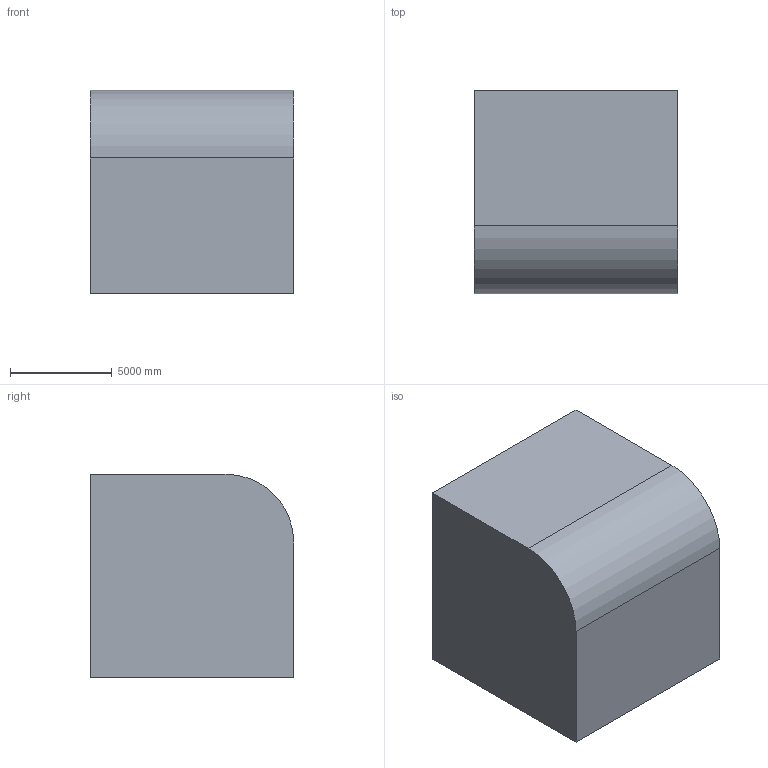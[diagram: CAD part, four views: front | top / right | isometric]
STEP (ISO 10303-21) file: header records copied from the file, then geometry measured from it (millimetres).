
FILE_DESCRIPTION (( 'STEP AP203' ), '1' );
FILE_NAME ('279.STEP', '2022-07-28T14:11:28', ( 'user' ), ( '' ), 'SwSTEP 2.0', 'SolidWorks 2021', '' );
FILE_SCHEMA (( 'CONFIG_CONTROL_DESIGN' ));
Length unit declared in the file: centimetre
Products named in the file (1): 279
Bounding box: 10000 x 10000 x 10000 mm (x, y, z)
Volume: 912842189419.3 mm3; surface area: 692577519.8 mm2
Topology: 1 solids, 1 shells, 16 faces, 33 edges, 22 vertices
Faces by surface type: plane 9, cylinder 7
Entity records: 508 total; most frequent: DIRECTION 81, CARTESIAN_POINT 72, ORIENTED_EDGE 66, EDGE_CURVE 33, AXIS2_PLACEMENT_3D 31, VERTEX_POINT 22, EDGE_LOOP 19, LINE 19
